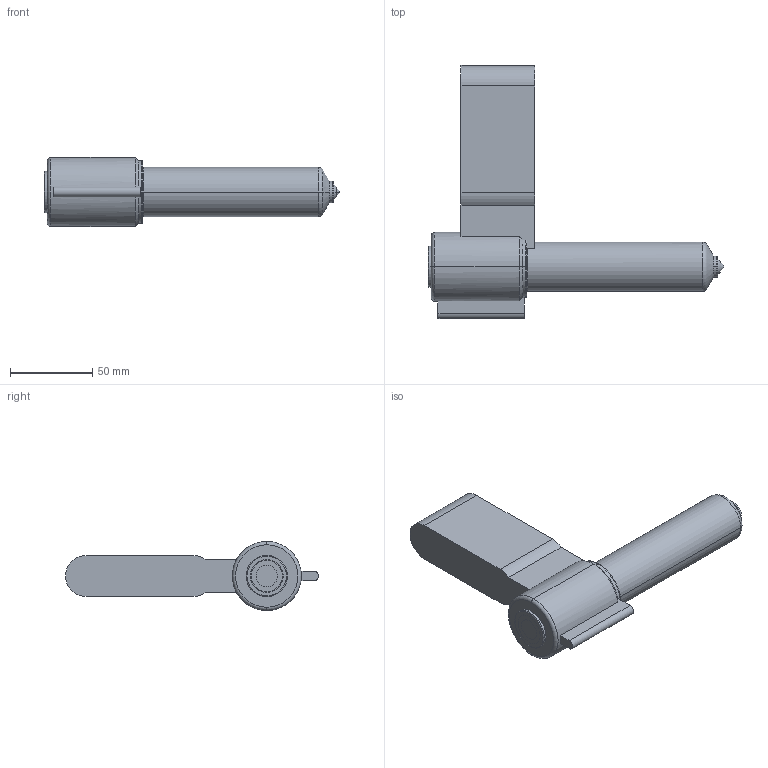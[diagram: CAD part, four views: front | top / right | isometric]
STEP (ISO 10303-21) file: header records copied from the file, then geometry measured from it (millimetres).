
FILE_DESCRIPTION (( 'STEP AP214' ), '1' );
FILE_NAME ('PLS18-140CC-1.2.STEP', '2021-06-16T07:15:35', ( '' ), ( '' ), 'SwSTEP 2.0', 'SolidWorks 2018', '' );
FILE_SCHEMA (( 'AUTOMOTIVE_DESIGN' ));
Length unit declared in the file: millimetre
Products named in the file (5): join^PLS｢ﾚ-NOZZLE-7; CC(18)-7; BODY SPRING(18-SPRING)-7; PLSＬ(18)-7; PLS18-140CC-1.2
Assembly tree (4 placements, depth 2):
  PLS18-140CC-1.2
    PLSＬ(18)-7
    BODY SPRING(18-SPRING)-7
    CC(18)-7
    join^PLS｢ﾚ-NOZZLE-7
Bounding box: 180 x 154 x 42 mm (x, y, z)
Volume: 385875.2 mm3; surface area: 65410.2 mm2
Topology: 4 solids, 4 shells, 242 faces, 600 edges, 380 vertices
Faces by surface type: cylinder 116, plane 53, torus 37, cone 32, sphere 4
Entity records: 7920 total; most frequent: CARTESIAN_POINT 1773, DIRECTION 1372, ORIENTED_EDGE 1200, EDGE_CURVE 600, AXIS2_PLACEMENT_3D 587, VERTEX_POINT 380, CIRCLE 338, EDGE_LOOP 268
